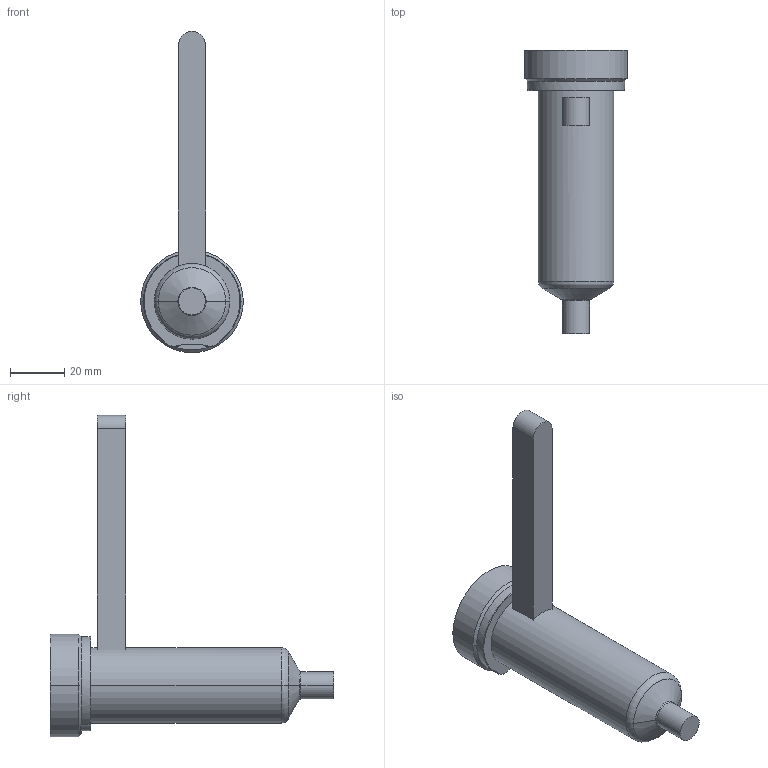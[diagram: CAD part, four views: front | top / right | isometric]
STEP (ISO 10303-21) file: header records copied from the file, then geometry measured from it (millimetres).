
FILE_DESCRIPTION((''),'2;1');
FILE_NAME('EO06_PG-FBE_WR_080_COT','2024-02-19T11:52:10',('sundharh'),(''),'CREO PARAMETRIC BY PTC INC, 2023154','CREO PARAMETRIC BY PTC INC, 2023154','');
FILE_SCHEMA(('CONFIG_CONTROL_DESIGN'));
Length unit declared in the file: millimetre
Products named in the file (1): EO06_PG-FBE_WR_080_COT
Bounding box: 38 x 105 x 119 mm (x, y, z)
Volume: 72495.4 mm3; surface area: 14246.4 mm2
Topology: 1 solids, 1 shells, 31 faces, 67 edges, 40 vertices
Faces by surface type: cylinder 11, plane 9, torus 7, cone 4
Entity records: 963 total; most frequent: CARTESIAN_POINT 230, DIRECTION 159, ORIENTED_EDGE 134, AXIS2_PLACEMENT_3D 67, EDGE_CURVE 67, VERTEX_POINT 40, CIRCLE 36, EDGE_LOOP 33
